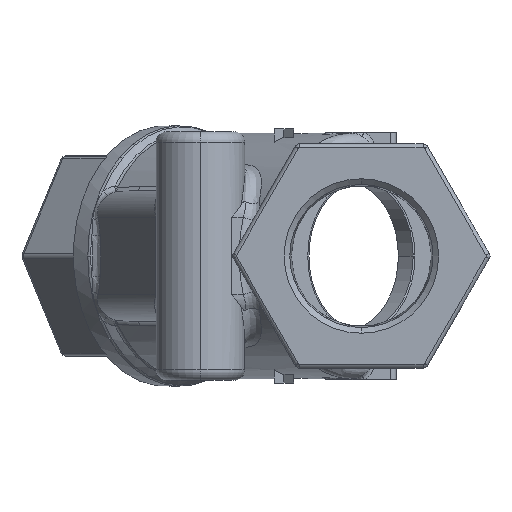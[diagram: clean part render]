
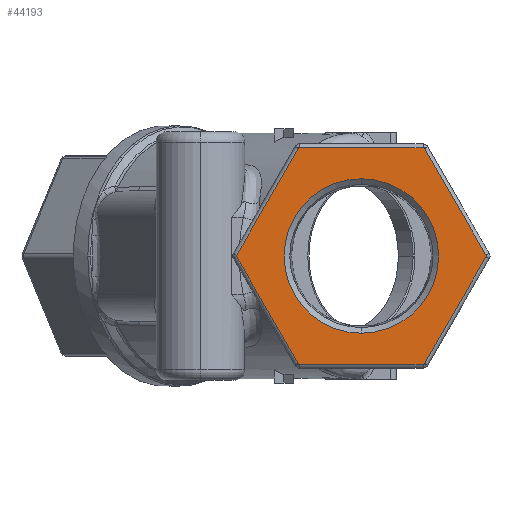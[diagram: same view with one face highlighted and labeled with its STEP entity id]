
A CAD part, left-side view. The second image highlights one B-rep face of the part: STEP entity #44193.
In plain terms, the highlighted planar face has unit normal (-1, 0, 0).
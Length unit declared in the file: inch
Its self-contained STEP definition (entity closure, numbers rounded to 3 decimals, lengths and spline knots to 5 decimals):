
#1529 = FACE_BOUND ( 'NONE', #42087, .T. ) ;
#1540 = FACE_OUTER_BOUND ( 'NONE', #44654, .T. ) ;
#2099 = VERTEX_POINT ( 'NONE', #16960 ) ;
#3336 = EDGE_CURVE ( 'NONE', #2099, #18932, #15763, .T. ) ;
#6035 = VERTEX_POINT ( 'NONE', #21602 ) ;
#6329 = EDGE_CURVE ( 'NONE', #8728, #8650, #16433, .T. ) ;
#6332 = EDGE_CURVE ( 'NONE', #8650, #8716, #16437, .T. ) ;
#6335 = EDGE_CURVE ( 'NONE', #8667, #8728, #16440, .T. ) ;
#6339 = EDGE_CURVE ( 'NONE', #8716, #8655, #16444, .T. ) ;
#6971 = EDGE_CURVE ( 'NONE', #8703, #8667, #16481, .T. ) ;
#6978 = EDGE_CURVE ( 'NONE', #8655, #8699, #16486, .T. ) ;
#6981 = EDGE_CURVE ( 'NONE', #8658, #8703, #16491, .T. ) ;
#6988 = EDGE_CURVE ( 'NONE', #8699, #8685, #16495, .T. ) ;
#6990 = EDGE_CURVE ( 'NONE', #8644, #8711, #16498, .T. ) ;
#6993 = EDGE_CURVE ( 'NONE', #6035, #8658, #16501, .T. ) ;
#6999 = EDGE_CURVE ( 'NONE', #8685, #8644, #16510, .T. ) ;
#7001 = EDGE_CURVE ( 'NONE', #8711, #6035, #16505, .T. ) ;
#8644 = VERTEX_POINT ( 'NONE', #27885 ) ;
#8650 = VERTEX_POINT ( 'NONE', #27881 ) ;
#8655 = VERTEX_POINT ( 'NONE', #27893 ) ;
#8658 = VERTEX_POINT ( 'NONE', #27896 ) ;
#8667 = VERTEX_POINT ( 'NONE', #27905 ) ;
#8685 = VERTEX_POINT ( 'NONE', #27923 ) ;
#8699 = VERTEX_POINT ( 'NONE', #27937 ) ;
#8703 = VERTEX_POINT ( 'NONE', #27941 ) ;
#8711 = VERTEX_POINT ( 'NONE', #27949 ) ;
#8716 = VERTEX_POINT ( 'NONE', #27954 ) ;
#8728 = VERTEX_POINT ( 'NONE', #27966 ) ;
#9193 = ORIENTED_EDGE ( 'NONE', *, *, #42301, .T. ) ;
#9194 = ORIENTED_EDGE ( 'NONE', *, *, #3336, .T. ) ;
#9195 = ORIENTED_EDGE ( 'NONE', *, *, #6332, .T. ) ;
#9196 = ORIENTED_EDGE ( 'NONE', *, *, #6339, .T. ) ;
#9197 = ORIENTED_EDGE ( 'NONE', *, *, #6978, .T. ) ;
#9198 = ORIENTED_EDGE ( 'NONE', *, *, #6988, .T. ) ;
#9199 = ORIENTED_EDGE ( 'NONE', *, *, #6999, .T. ) ;
#9200 = ORIENTED_EDGE ( 'NONE', *, *, #6990, .T. ) ;
#9201 = ORIENTED_EDGE ( 'NONE', *, *, #7001, .T. ) ;
#9202 = ORIENTED_EDGE ( 'NONE', *, *, #6993, .T. ) ;
#9203 = ORIENTED_EDGE ( 'NONE', *, *, #6981, .T. ) ;
#9204 = ORIENTED_EDGE ( 'NONE', *, *, #6971, .T. ) ;
#9205 = ORIENTED_EDGE ( 'NONE', *, *, #6335, .T. ) ;
#9206 = ORIENTED_EDGE ( 'NONE', *, *, #6329, .T. ) ;
#14505 = AXIS2_PLACEMENT_3D ( 'NONE', #17846, #17847, #17848 ) ;
#14646 = AXIS2_PLACEMENT_3D ( 'NONE', #23275, #23276, #23277 ) ;
#14649 = AXIS2_PLACEMENT_3D ( 'NONE', #23285, #23286, #23287 ) ;
#14673 = AXIS2_PLACEMENT_3D ( 'NONE', #25259, #25260, #25261 ) ;
#14676 = AXIS2_PLACEMENT_3D ( 'NONE', #25269, #25270, #25271 ) ;
#14689 = AXIS2_PLACEMENT_3D ( 'NONE', #25333, #25334, #25335 ) ;
#14691 = AXIS2_PLACEMENT_3D ( 'NONE', #25341, #25342, #25343 ) ;
#15763 = CIRCLE ( 'NONE', #14505, 0.72337 ) ;
#16433 = LINE ( 'NONE', #23267, #16436 ) ;
#16436 = VECTOR ( 'NONE', #23268, 39.37008 ) ;
#16437 = CIRCLE ( 'NONE', #14646, 0.01561 ) ;
#16440 = CIRCLE ( 'NONE', #14649, 0.01561 ) ;
#16444 = LINE ( 'NONE', #23294, #16447 ) ;
#16447 = VECTOR ( 'NONE', #23284, 39.37008 ) ;
#16481 = LINE ( 'NONE', #25233, #16484 ) ;
#16484 = VECTOR ( 'NONE', #25234, 39.37008 ) ;
#16486 = CIRCLE ( 'NONE', #14673, 0.01561 ) ;
#16491 = CIRCLE ( 'NONE', #14676, 0.01561 ) ;
#16495 = LINE ( 'NONE', #25291, #16500 ) ;
#16498 = LINE ( 'NONE', #25299, #16503 ) ;
#16500 = VECTOR ( 'NONE', #25290, 39.37008 ) ;
#16501 = LINE ( 'NONE', #25308, #16507 ) ;
#16503 = VECTOR ( 'NONE', #25295, 39.37008 ) ;
#16505 = CIRCLE ( 'NONE', #14691, 0.01561 ) ;
#16507 = VECTOR ( 'NONE', #25303, 39.37008 ) ;
#16510 = CIRCLE ( 'NONE', #14689, 0.01561 ) ;
#16960 = CARTESIAN_POINT ( 'NONE',  ( -1.4475, 0., -0.72337 ) ) ;
#17846 = CARTESIAN_POINT ( 'NONE',  ( -1.4475, 0., 0. ) ) ;
#17847 = DIRECTION ( 'NONE',  ( 1., 0., 0. ) ) ;
#17848 = DIRECTION ( 'NONE',  ( 0., 0., -1. ) ) ;
#18932 = VERTEX_POINT ( 'NONE', #42373 ) ;
#21257 = AXIS2_PLACEMENT_3D ( 'NONE', #31059, #31065, #31066 ) ;
#21602 = CARTESIAN_POINT ( 'NONE',  ( -1.4475, 1.16822, -0.00781 ) ) ;
#23267 = CARTESIAN_POINT ( 'NONE',  ( -1.4475, -0.87955, -0.50781 ) ) ;
#23268 = DIRECTION ( 'NONE',  ( 0., -0.5, 0.866 ) ) ;
#23275 = CARTESIAN_POINT ( 'NONE',  ( -1.4475, -1.1547, 0. ) ) ;
#23276 = DIRECTION ( 'NONE',  ( -1., 0., 0. ) ) ;
#23277 = DIRECTION ( 'NONE',  ( 0., 0., -1. ) ) ;
#23284 = DIRECTION ( 'NONE',  ( 0., 0.5, 0.866 ) ) ;
#23285 = CARTESIAN_POINT ( 'NONE',  ( -1.4475, -0.57735, -1. ) ) ;
#23286 = DIRECTION ( 'NONE',  ( -1., 0., 0. ) ) ;
#23287 = DIRECTION ( 'NONE',  ( 0., 0., -1. ) ) ;
#23294 = CARTESIAN_POINT ( 'NONE',  ( -1.4475, -0.87955, 0.50781 ) ) ;
#25233 = CARTESIAN_POINT ( 'NONE',  ( -1.4475, 0., -1.01561 ) ) ;
#25234 = DIRECTION ( 'NONE',  ( 0., -1., 0. ) ) ;
#25259 = CARTESIAN_POINT ( 'NONE',  ( -1.4475, -0.57735, 1. ) ) ;
#25260 = DIRECTION ( 'NONE',  ( -1., 0., 0. ) ) ;
#25261 = DIRECTION ( 'NONE',  ( 0., 0., -1. ) ) ;
#25269 = CARTESIAN_POINT ( 'NONE',  ( -1.4475, 0.57735, -1. ) ) ;
#25270 = DIRECTION ( 'NONE',  ( -1., 0., 0. ) ) ;
#25271 = DIRECTION ( 'NONE',  ( 0., 0., -1. ) ) ;
#25290 = DIRECTION ( 'NONE',  ( 0., 1., 0. ) ) ;
#25291 = CARTESIAN_POINT ( 'NONE',  ( -1.4475, 0., 1.01561 ) ) ;
#25295 = DIRECTION ( 'NONE',  ( 0., 0.5, -0.866 ) ) ;
#25299 = CARTESIAN_POINT ( 'NONE',  ( -1.4475, 0.87955, 0.50781 ) ) ;
#25303 = DIRECTION ( 'NONE',  ( 0., -0.5, -0.866 ) ) ;
#25308 = CARTESIAN_POINT ( 'NONE',  ( -1.4475, 0.87955, -0.50781 ) ) ;
#25333 = CARTESIAN_POINT ( 'NONE',  ( -1.4475, 0.57735, 1. ) ) ;
#25334 = DIRECTION ( 'NONE',  ( -1., 0., 0. ) ) ;
#25335 = DIRECTION ( 'NONE',  ( 0., 0., -1. ) ) ;
#25341 = CARTESIAN_POINT ( 'NONE',  ( -1.4475, 1.1547, 0. ) ) ;
#25342 = DIRECTION ( 'NONE',  ( -1., 0., 0. ) ) ;
#25343 = DIRECTION ( 'NONE',  ( 0., 0., -1. ) ) ;
#27881 = CARTESIAN_POINT ( 'NONE',  ( -1.4475, -1.16822, -0.00781 ) ) ;
#27885 = CARTESIAN_POINT ( 'NONE',  ( -1.4475, 0.59087, 1.00781 ) ) ;
#27893 = CARTESIAN_POINT ( 'NONE',  ( -1.4475, -0.59087, 1.00781 ) ) ;
#27896 = CARTESIAN_POINT ( 'NONE',  ( -1.4475, 0.59087, -1.00781 ) ) ;
#27905 = CARTESIAN_POINT ( 'NONE',  ( -1.4475, -0.57735, -1.01561 ) ) ;
#27923 = CARTESIAN_POINT ( 'NONE',  ( -1.4475, 0.57735, 1.01561 ) ) ;
#27937 = CARTESIAN_POINT ( 'NONE',  ( -1.4475, -0.57735, 1.01561 ) ) ;
#27941 = CARTESIAN_POINT ( 'NONE',  ( -1.4475, 0.57735, -1.01561 ) ) ;
#27949 = CARTESIAN_POINT ( 'NONE',  ( -1.4475, 1.16822, 0.00781 ) ) ;
#27954 = CARTESIAN_POINT ( 'NONE',  ( -1.4475, -1.16822, 0.00781 ) ) ;
#27966 = CARTESIAN_POINT ( 'NONE',  ( -1.4475, -0.59087, -1.00781 ) ) ;
#31059 = CARTESIAN_POINT ( 'NONE',  ( -1.4475, 0., 0. ) ) ;
#31060 = PLANE ( 'NONE',  #21257 ) ;
#31065 = DIRECTION ( 'NONE',  ( 1., 0., 0. ) ) ;
#31066 = DIRECTION ( 'NONE',  ( 0., 0., -1. ) ) ;
#33057 = AXIS2_PLACEMENT_3D ( 'NONE', #43563, #43564, #43566 ) ;
#36922 = CIRCLE ( 'NONE', #33057, 0.72337 ) ;
#42087 = EDGE_LOOP ( 'NONE', ( #9193, #9194 ) ) ;
#42301 = EDGE_CURVE ( 'NONE', #18932, #2099, #36922, .T. ) ;
#42373 = CARTESIAN_POINT ( 'NONE',  ( -1.4475, 0., 0.72337 ) ) ;
#43563 = CARTESIAN_POINT ( 'NONE',  ( -1.4475, 0., 0. ) ) ;
#43564 = DIRECTION ( 'NONE',  ( 1., 0., 0. ) ) ;
#43566 = DIRECTION ( 'NONE',  ( 0., 0., -1. ) ) ;
#44193 = ADVANCED_FACE ( 'NONE', ( #1529, #1540 ), #31060, .F. ) ;
#44654 = EDGE_LOOP ( 'NONE', ( #9195, #9196, #9197, #9198, #9199, #9200, #9201, #9202, #9203, #9204, #9205, #9206 ) ) ;
